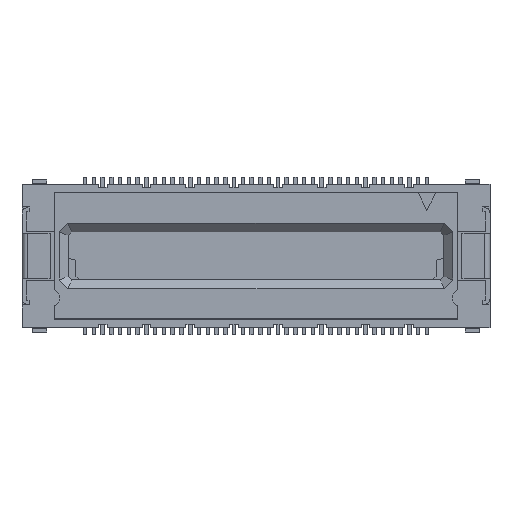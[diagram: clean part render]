
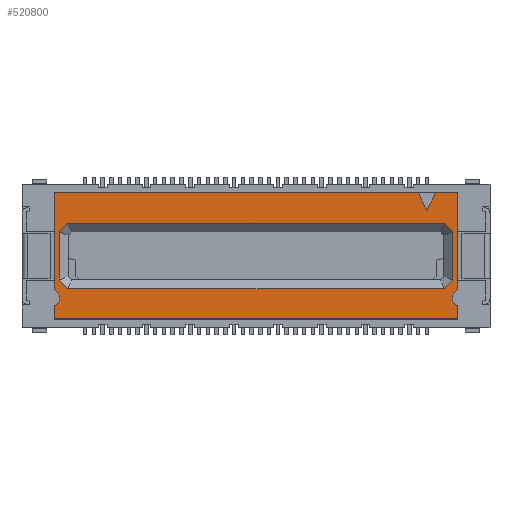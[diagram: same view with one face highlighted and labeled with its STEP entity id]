
A CAD part, top view. The second image highlights one B-rep face of the part: STEP entity #520800.
In plain terms, the highlighted planar face has unit normal (0, 0, 1).
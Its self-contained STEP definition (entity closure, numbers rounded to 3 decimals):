
#1170=CARTESIAN_POINT('',(-2.891,-1.978,4.));
#1180=DIRECTION('',(0.,0.,-1.));
#1190=DIRECTION('',(-1.,0.,0.));
#1200=AXIS2_PLACEMENT_3D('',#1170,#1180,#1190);
#1210=CIRCLE('',#1200,0.5);
#1220=CARTESIAN_POINT('',(-2.691,-1.52,4.));
#1230=VERTEX_POINT('',#1220);
#1240=CARTESIAN_POINT('',(-2.691,-2.436,4.));
#1250=VERTEX_POINT('',#1240);
#1260=EDGE_CURVE('',#1230,#1250,#1210,.T.);
#2340=CARTESIAN_POINT('',(20.034,-0.955,4.));
#2350=VERTEX_POINT('',#2340);
#2380=CARTESIAN_POINT('',(19.787,-1.202,4.));
#2390=DIRECTION('',(-0.707,-0.707,0.));
#2400=VECTOR('',#2390,1.);
#2410=LINE('',#2380,#2400);
#2420=CARTESIAN_POINT('',(19.541,-1.448,4.));
#2430=VERTEX_POINT('',#2420);
#2440=EDGE_CURVE('',#2350,#2430,#2410,.T.);
#59880=CARTESIAN_POINT('',(20.309,-1.52,4.));
#59890=VERTEX_POINT('',#59880);
#60050=CARTESIAN_POINT('',(20.309,-2.436,4.));
#60060=VERTEX_POINT('',#60050);
#60090=CARTESIAN_POINT('',(20.509,-1.978,4.));
#60100=DIRECTION('',(0.,0.,1.));
#60110=DIRECTION('',(1.,0.,0.));
#60120=AXIS2_PLACEMENT_3D('',#60090,#60100,#60110);
#60130=CIRCLE('',#60120,0.5);
#60140=EDGE_CURVE('',#59890,#60060,#60130,.T.);
#60280=CARTESIAN_POINT('',(20.309,-3.178,4.));
#60290=VERTEX_POINT('',#60280);
#60340=CARTESIAN_POINT('',(20.309,0.,4.));
#60350=DIRECTION('',(0.,-1.,0.));
#60360=VECTOR('',#60350,1.);
#60370=LINE('',#60340,#60360);
#60380=EDGE_CURVE('',#60060,#60290,#60370,.T.);
#65340=CARTESIAN_POINT('',(17.048,0.,4.));
#65350=DIRECTION('',(0.447,0.894,0.));
#65360=VECTOR('',#65350,1.);
#65370=LINE('',#65340,#65360);
#65380=CARTESIAN_POINT('',(18.559,3.022,4.));
#65390=VERTEX_POINT('',#65380);
#65400=CARTESIAN_POINT('',(19.059,4.022,4.));
#65410=VERTEX_POINT('',#65400);
#65420=EDGE_CURVE('',#65390,#65410,#65370,.T.);
#169840=CARTESIAN_POINT('',(20.07,0.,4.));
#169850=DIRECTION('',(0.447,-0.894,0.));
#169860=VECTOR('',#169850,1.);
#169870=LINE('',#169840,#169860);
#169880=CARTESIAN_POINT('',(18.059,4.022,4.));
#169890=VERTEX_POINT('',#169880);
#169900=EDGE_CURVE('',#169890,#65390,#169870,.T.);
#252670=CARTESIAN_POINT('',(-2.691,0.,4.));
#252680=DIRECTION('',(0.,1.,0.));
#252690=VECTOR('',#252680,1.);
#252700=LINE('',#252670,#252690);
#252710=CARTESIAN_POINT('',(-2.691,-3.178,4.));
#252720=VERTEX_POINT('',#252710);
#252730=EDGE_CURVE('',#252720,#1250,#252700,.T.);
#295210=CARTESIAN_POINT('',(20.034,1.799,4.));
#295220=VERTEX_POINT('',#295210);
#295250=CARTESIAN_POINT('',(20.034,0.422,4.));
#295260=DIRECTION('',(0.,1.,0.));
#295270=VECTOR('',#295260,1.);
#295280=LINE('',#295250,#295270);
#295290=EDGE_CURVE('',#2350,#295220,#295280,.T.);
#462460=CARTESIAN_POINT('',(19.541,2.292,4.));
#462470=VERTEX_POINT('',#462460);
#462500=CARTESIAN_POINT('',(19.787,2.045,4.));
#462510=DIRECTION('',(0.707,-0.707,0.));
#462520=VECTOR('',#462510,1.);
#462530=LINE('',#462500,#462520);
#462540=EDGE_CURVE('',#462470,#295220,#462530,.T.);
#519940=CARTESIAN_POINT('',(1.309,-2.313,4.));
#519950=DIRECTION('',(0.,0.,1.));
#519960=DIRECTION('',(1.,0.,0.));
#519970=AXIS2_PLACEMENT_3D('',#519940,#519950,#519960);
#519980=PLANE('',#519970);
#519990=ORIENTED_EDGE('',*,*,#2440,.T.);
#520000=ORIENTED_EDGE('',*,*,#295290,.F.);
#520010=ORIENTED_EDGE('',*,*,#462540,.T.);
#520020=CARTESIAN_POINT('',(-6.946,2.292,4.));
#520030=DIRECTION('',(1.,0.,0.));
#520040=VECTOR('',#520030,1.);
#520050=LINE('',#520020,#520040);
#520060=CARTESIAN_POINT('',(-1.924,2.292,4.));
#520070=VERTEX_POINT('',#520060);
#520080=EDGE_CURVE('',#520070,#462470,#520050,.T.);
#520090=ORIENTED_EDGE('',*,*,#520080,.T.);
#520100=CARTESIAN_POINT('',(-2.17,2.045,4.));
#520110=DIRECTION('',(-0.707,-0.707,0.));
#520120=VECTOR('',#520110,1.);
#520130=LINE('',#520100,#520120);
#520140=CARTESIAN_POINT('',(-2.416,1.799,4.));
#520150=VERTEX_POINT('',#520140);
#520160=EDGE_CURVE('',#520070,#520150,#520130,.T.);
#520170=ORIENTED_EDGE('',*,*,#520160,.F.);
#520180=CARTESIAN_POINT('',(-2.416,0.422,4.));
#520190=DIRECTION('',(0.,1.,0.));
#520200=VECTOR('',#520190,1.);
#520210=LINE('',#520180,#520200);
#520220=CARTESIAN_POINT('',(-2.416,-0.955,4.));
#520230=VERTEX_POINT('',#520220);
#520240=EDGE_CURVE('',#520230,#520150,#520210,.T.);
#520250=ORIENTED_EDGE('',*,*,#520240,.T.);
#520260=CARTESIAN_POINT('',(-2.17,-1.202,4.));
#520270=DIRECTION('',(0.707,-0.707,0.));
#520280=VECTOR('',#520270,1.);
#520290=LINE('',#520260,#520280);
#520300=CARTESIAN_POINT('',(-1.924,-1.448,4.));
#520310=VERTEX_POINT('',#520300);
#520320=EDGE_CURVE('',#520230,#520310,#520290,.T.);
#520330=ORIENTED_EDGE('',*,*,#520320,.F.);
#520340=CARTESIAN_POINT('',(-15.581,-1.448,4.));
#520350=DIRECTION('',(-1.,0.,0.));
#520360=VECTOR('',#520350,1.);
#520370=LINE('',#520340,#520360);
#520380=EDGE_CURVE('',#2430,#520310,#520370,.T.);
#520390=ORIENTED_EDGE('',*,*,#520380,.T.);
#520400=EDGE_LOOP('',(#520390,#520330,#520250,#520170,#520090,#520010,
#520000,#519990));
#520410=FACE_BOUND('',#520400,.T.);
#520420=ORIENTED_EDGE('',*,*,#252730,.F.);
#520430=ORIENTED_EDGE('',*,*,#1260,.T.);
#520440=CARTESIAN_POINT('',(-2.691,4.022,4.));
#520450=VERTEX_POINT('',#520440);
#520460=EDGE_CURVE('',#1230,#520450,#252700,.T.);
#520470=ORIENTED_EDGE('',*,*,#520460,.F.);
#520480=CARTESIAN_POINT('',(25.,4.022,4.));
#520490=DIRECTION('',(-1.,0.,0.));
#520500=VECTOR('',#520490,1.);
#520510=LINE('',#520480,#520500);
#520520=EDGE_CURVE('',#169890,#520450,#520510,.T.);
#520530=ORIENTED_EDGE('',*,*,#520520,.T.);
#520540=ORIENTED_EDGE('',*,*,#169900,.F.);
#520550=ORIENTED_EDGE('',*,*,#65420,.F.);
#520560=CARTESIAN_POINT('',(5.,4.022,4.));
#520570=DIRECTION('',(-1.,0.,0.));
#520580=VECTOR('',#520570,1.);
#520590=LINE('',#520560,#520580);
#520600=CARTESIAN_POINT('',(20.309,4.022,4.));
#520610=VERTEX_POINT('',#520600);
#520620=EDGE_CURVE('',#520610,#65410,#520590,.T.);
#520630=ORIENTED_EDGE('',*,*,#520620,.T.);
#520640=CARTESIAN_POINT('',(20.309,0.,4.));
#520650=DIRECTION('',(0.,-1.,0.));
#520660=VECTOR('',#520650,1.);
#520670=LINE('',#520640,#520660);
#520680=EDGE_CURVE('',#520610,#59890,#520670,.T.);
#520690=ORIENTED_EDGE('',*,*,#520680,.F.);
#520700=ORIENTED_EDGE('',*,*,#60140,.F.);
#520710=ORIENTED_EDGE('',*,*,#60380,.F.);
#520720=CARTESIAN_POINT('',(17.617,-3.178,4.));
#520730=DIRECTION('',(-1.,0.,0.));
#520740=VECTOR('',#520730,1.);
#520750=LINE('',#520720,#520740);
#520760=EDGE_CURVE('',#60290,#252720,#520750,.T.);
#520770=ORIENTED_EDGE('',*,*,#520760,.F.);
#520780=EDGE_LOOP('',(#520770,#520710,#520700,#520690,#520630,#520550,
#520540,#520530,#520470,#520430,#520420));
#520790=FACE_OUTER_BOUND('',#520780,.T.);
#520800=ADVANCED_FACE('',(#520410,#520790),#519980,.T.);
